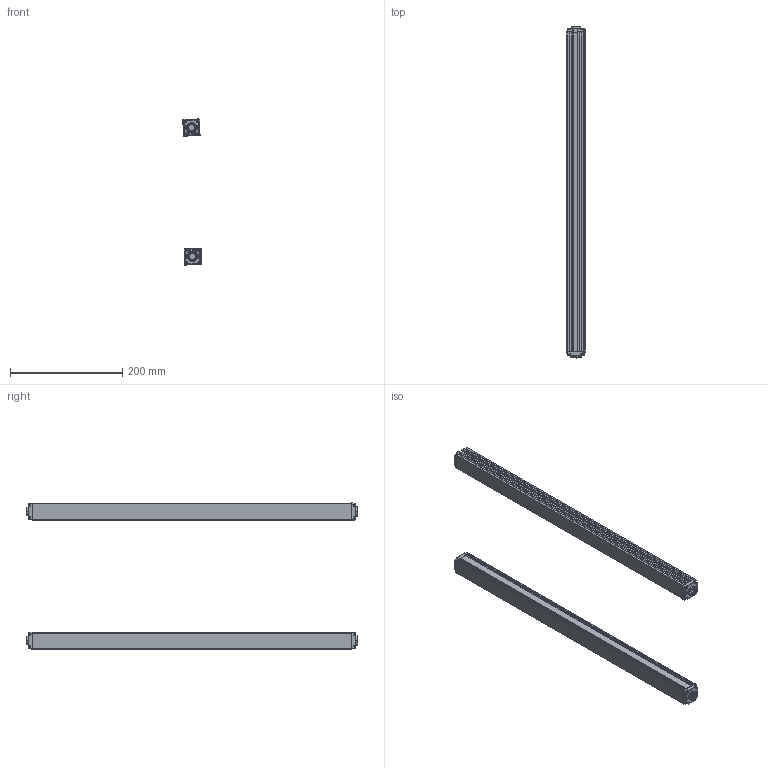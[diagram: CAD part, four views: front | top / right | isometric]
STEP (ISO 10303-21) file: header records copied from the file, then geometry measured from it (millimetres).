
FILE_DESCRIPTION (( 'STEP AP203' ), '1' );
FILE_NAME ('ZDA2820-570.STEP', '2022-08-30T07:33:22', ( 'Windows 蚚誧' ), ( 'Organization' ), 'SwSTEP 2.0', 'SolidWorks 2020', '' );
FILE_SCHEMA (( 'CONFIG_CONTROL_DESIGN' ));
Length unit declared in the file: millimetre
Products named in the file (5): 錨璃1; 錨璃8; 錨璃8 - 萵掛 (2); 錨璃10; ZDA2820-570
Assembly tree (8 placements, depth 2):
  ZDA2820-570
    錨璃1  x2
    錨璃8  x2
    錨璃8 - 萵掛 (2)  x2
    錨璃10  x2
Bounding box: 32.36 x 591.4 x 260.35 mm (x, y, z)
Volume: 366771.4 mm3; surface area: 389350 mm2
Topology: 8 solids, 8 shells, 1032 faces, 2690 edges, 1668 vertices
Faces by surface type: plane 464, cylinder 310, cone 120, bspline 58, torus 48, sphere 32
Entity records: 17901 total; most frequent: CARTESIAN_POINT 4731, ORIENTED_EDGE 2666, DIRECTION 2616, EDGE_CURVE 1333, AXIS2_PLACEMENT_3D 894, VERTEX_POINT 834, VECTOR 828, LINE 828
